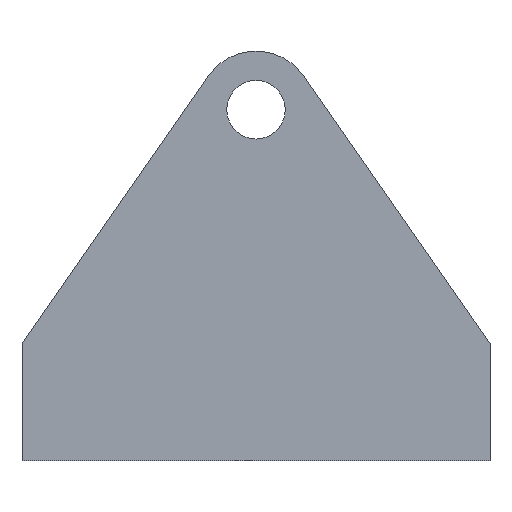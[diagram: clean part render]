
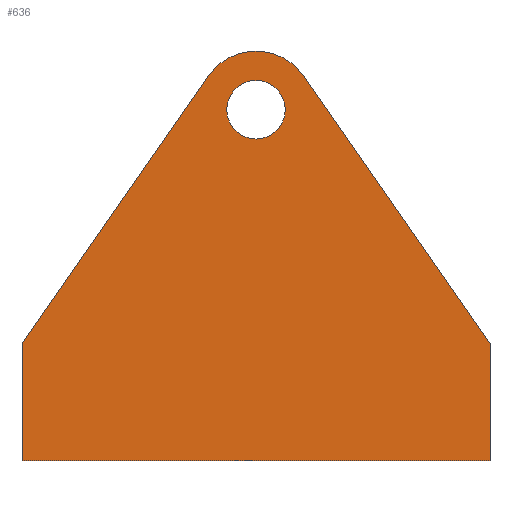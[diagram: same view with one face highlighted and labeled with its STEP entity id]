
A CAD part, front view. The second image highlights one B-rep face of the part: STEP entity #636.
In plain terms, the highlighted planar face has unit normal (0, -1, 0).
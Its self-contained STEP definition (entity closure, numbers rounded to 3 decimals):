
#11 = EDGE_CURVE ( 'NONE', #360, #62, #206, .T. ) ;
#12 = CARTESIAN_POINT ( 'NONE',  ( 24.105, -7., 32.855 ) ) ;
#24 = DIRECTION ( 'NONE',  ( 0.571, 0., -0.821 ) ) ;
#27 = CARTESIAN_POINT ( 'NONE',  ( 20., -7., 30. ) ) ;
#30 = DIRECTION ( 'NONE',  ( 0., 1., 0. ) ) ;
#33 = CARTESIAN_POINT ( 'NONE',  ( 20., -7., 27.5 ) ) ;
#51 = EDGE_LOOP ( 'NONE', ( #653, #358, #613, #253, #164, #397 ) ) ;
#62 = VERTEX_POINT ( 'NONE', #80 ) ;
#74 = LINE ( 'NONE', #472, #578 ) ;
#80 = CARTESIAN_POINT ( 'NONE',  ( 15.895, -7., 32.855 ) ) ;
#85 = DIRECTION ( 'NONE',  ( -1., 0., 0. ) ) ;
#99 = CIRCLE ( 'NONE', #347, 5. ) ;
#109 = CARTESIAN_POINT ( 'NONE',  ( 20., -7., 30. ) ) ;
#111 = VERTEX_POINT ( 'NONE', #373 ) ;
#132 = VECTOR ( 'NONE', #85, 1000. ) ;
#139 = LINE ( 'NONE', #390, #521 ) ;
#158 = FACE_OUTER_BOUND ( 'NONE', #51, .T. ) ;
#164 = ORIENTED_EDGE ( 'NONE', *, *, #465, .F. ) ;
#206 = LINE ( 'NONE', #366, #563 ) ;
#211 = CIRCLE ( 'NONE', #344, 2.5 ) ;
#218 = EDGE_CURVE ( 'NONE', #441, #360, #139, .T. ) ;
#230 = CARTESIAN_POINT ( 'NONE',  ( 20., -7., 30. ) ) ;
#246 = DIRECTION ( 'NONE',  ( 0., 0., 1. ) ) ;
#251 = ORIENTED_EDGE ( 'NONE', *, *, #350, .T. ) ;
#253 = ORIENTED_EDGE ( 'NONE', *, *, #330, .F. ) ;
#259 = AXIS2_PLACEMENT_3D ( 'NONE', #27, #368, #622 ) ;
#261 = VERTEX_POINT ( 'NONE', #592 ) ;
#274 = CARTESIAN_POINT ( 'NONE',  ( 40., -7., 0. ) ) ;
#286 = EDGE_CURVE ( 'NONE', #445, #441, #440, .T. ) ;
#296 = EDGE_CURVE ( 'NONE', #261, #364, #211, .T. ) ;
#304 = DIRECTION ( 'NONE',  ( 0., 1., 0. ) ) ;
#320 = DIRECTION ( 'NONE',  ( 0., 0., 1. ) ) ;
#330 = EDGE_CURVE ( 'NONE', #518, #111, #74, .T. ) ;
#341 = ORIENTED_EDGE ( 'NONE', *, *, #296, .T. ) ;
#344 = AXIS2_PLACEMENT_3D ( 'NONE', #230, #431, #574 ) ;
#347 = AXIS2_PLACEMENT_3D ( 'NONE', #528, #30, #320 ) ;
#350 = EDGE_CURVE ( 'NONE', #364, #261, #429, .T. ) ;
#356 = FACE_BOUND ( 'NONE', #495, .T. ) ;
#358 = ORIENTED_EDGE ( 'NONE', *, *, #286, .F. ) ;
#360 = VERTEX_POINT ( 'NONE', #523 ) ;
#364 = VERTEX_POINT ( 'NONE', #33 ) ;
#366 = CARTESIAN_POINT ( 'NONE',  ( 0., -7., 10. ) ) ;
#368 = DIRECTION ( 'NONE',  ( 0., 1., 0. ) ) ;
#373 = CARTESIAN_POINT ( 'NONE',  ( 40., -7., 10. ) ) ;
#380 = AXIS2_PLACEMENT_3D ( 'NONE', #109, #304, #432 ) ;
#390 = CARTESIAN_POINT ( 'NONE',  ( 0., -7., 0. ) ) ;
#397 = ORIENTED_EDGE ( 'NONE', *, *, #11, .F. ) ;
#404 = DIRECTION ( 'NONE',  ( 0.571, 0., 0.821 ) ) ;
#429 = CIRCLE ( 'NONE', #259, 2.5 ) ;
#431 = DIRECTION ( 'NONE',  ( 0., 1., 0. ) ) ;
#432 = DIRECTION ( 'NONE',  ( 0., 0., 1. ) ) ;
#440 = LINE ( 'NONE', #494, #132 ) ;
#441 = VERTEX_POINT ( 'NONE', #482 ) ;
#445 = VERTEX_POINT ( 'NONE', #577 ) ;
#465 = EDGE_CURVE ( 'NONE', #62, #518, #99, .T. ) ;
#467 = EDGE_CURVE ( 'NONE', #111, #445, #585, .T. ) ;
#472 = CARTESIAN_POINT ( 'NONE',  ( 40., -7., 10. ) ) ;
#482 = CARTESIAN_POINT ( 'NONE',  ( 0., -7., 0. ) ) ;
#489 = VECTOR ( 'NONE', #533, 1000. ) ;
#494 = CARTESIAN_POINT ( 'NONE',  ( 0., -7., 0. ) ) ;
#495 = EDGE_LOOP ( 'NONE', ( #251, #341 ) ) ;
#518 = VERTEX_POINT ( 'NONE', #12 ) ;
#521 = VECTOR ( 'NONE', #246, 1000. ) ;
#523 = CARTESIAN_POINT ( 'NONE',  ( 0., -7., 10. ) ) ;
#528 = CARTESIAN_POINT ( 'NONE',  ( 20., -7., 30. ) ) ;
#533 = DIRECTION ( 'NONE',  ( 0., 0., -1. ) ) ;
#558 = PLANE ( 'NONE',  #380 ) ;
#563 = VECTOR ( 'NONE', #404, 1000. ) ;
#574 = DIRECTION ( 'NONE',  ( 0., 0., 1. ) ) ;
#577 = CARTESIAN_POINT ( 'NONE',  ( 40., -7., 0. ) ) ;
#578 = VECTOR ( 'NONE', #24, 1000. ) ;
#585 = LINE ( 'NONE', #274, #489 ) ;
#592 = CARTESIAN_POINT ( 'NONE',  ( 20., -7., 32.5 ) ) ;
#613 = ORIENTED_EDGE ( 'NONE', *, *, #467, .F. ) ;
#622 = DIRECTION ( 'NONE',  ( 0., 0., 1. ) ) ;
#636 = ADVANCED_FACE ( 'NONE', ( #158, #356 ), #558, .F. ) ;
#653 = ORIENTED_EDGE ( 'NONE', *, *, #218, .F. ) ;
